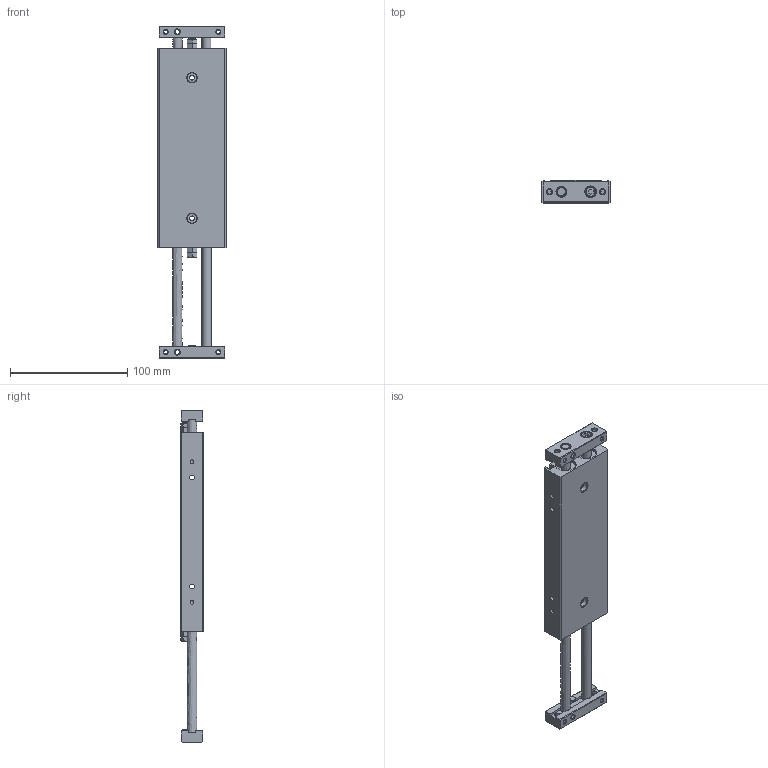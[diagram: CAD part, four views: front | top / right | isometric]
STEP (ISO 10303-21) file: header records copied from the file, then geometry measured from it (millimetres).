
FILE_DESCRIPTION((''),'2;1');
FILE_NAME('I:\3D電子目錄\氣缸\STX\STX\STX16\STX16x75.stp','2007-10-01T17:19:07',('Administrator'),(''),'Autodesk Inventor 11','Autodesk Inventor 11','');
FILE_SCHEMA(('AUTOMOTIVE_DESIGN { 1 0 10303 214 1 1 1 1 }'));
Length unit declared in the file: millimetre
Products named in the file (1): STX16
Bounding box: 58 x 20 x 283 mm (x, y, z)
Volume: 207977.3 mm3; surface area: 50538.1 mm2
Topology: 1 solids, 1 shells, 267 faces, 674 edges, 423 vertices
Faces by surface type: plane 130, cone 76, bspline 36, cylinder 21, torus 4
Full cylindrical faces by diameter (mm): 3.242 x2, 6 x2, 8 x6, 8.2 x2, 8.5 x2, 9 x2, 17 x2, 18 x2
Entity records: 8177 total; most frequent: CARTESIAN_POINT 2631, ORIENTED_EDGE 1088, DIRECTION 1066, EDGE_CURVE 544, EDGE_LOOP 414, AXIS2_PLACEMENT_3D 403, VERTEX_POINT 380, FACE_OUTER_BOUND 266
